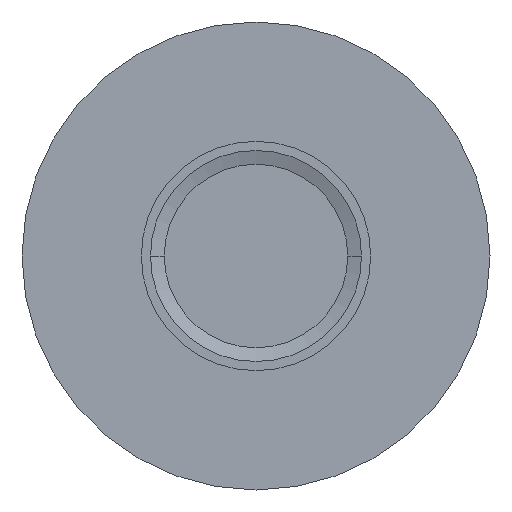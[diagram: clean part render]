
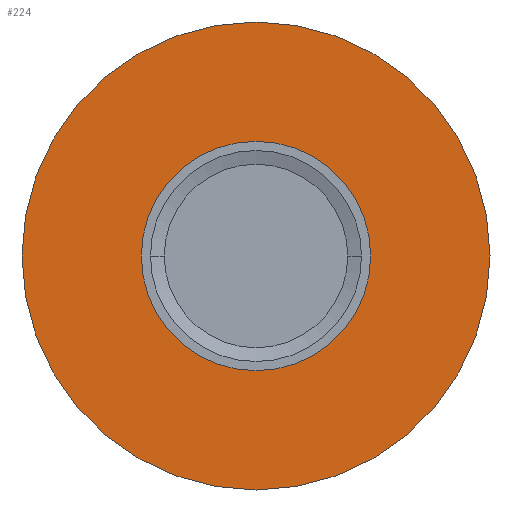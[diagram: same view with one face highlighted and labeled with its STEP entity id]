
A CAD part, left-side view. The second image highlights one B-rep face of the part: STEP entity #224.
In plain terms, the highlighted planar face has unit normal (-1, 0, 0) as drawn and (0, 0, -1) by its records, which use the part's own axes.
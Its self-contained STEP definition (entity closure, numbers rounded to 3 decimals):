
#1=CARTESIAN_POINT('',(0.,0.,0.));
#2=DIRECTION('',(0.,0.,1.));
#3=DIRECTION('',(1.,0.,0.));
#4=AXIS2_PLACEMENT_3D('',#1,#2,#3);
#6=CARTESIAN_POINT('',(0.,0.,0.));
#7=DIRECTION('',(0.,0.,1.));
#8=DIRECTION('',(-1.,0.,0.));
#9=AXIS2_PLACEMENT_3D('',#6,#7,#8);
#11=CARTESIAN_POINT('',(0.,0.,0.));
#12=DIRECTION('',(0.,0.,-1.));
#13=DIRECTION('',(1.,0.,0.));
#14=AXIS2_PLACEMENT_3D('',#11,#12,#13);
#16=CARTESIAN_POINT('',(0.,0.,0.));
#17=DIRECTION('',(0.,0.,-1.));
#18=DIRECTION('',(-1.,0.,0.));
#19=AXIS2_PLACEMENT_3D('',#16,#17,#18);
#159=CARTESIAN_POINT('',(51.,0.,0.));
#160=CARTESIAN_POINT('',(-51.,0.,0.));
#161=VERTEX_POINT('',#159);
#162=VERTEX_POINT('',#160);
#167=CARTESIAN_POINT('',(25.,0.,0.));
#168=CARTESIAN_POINT('',(-25.,0.,0.));
#169=VERTEX_POINT('',#167);
#170=VERTEX_POINT('',#168);
#207=CARTESIAN_POINT('',(0.,0.,0.));
#208=DIRECTION('',(0.,0.,1.));
#209=DIRECTION('',(1.,0.,0.));
#210=AXIS2_PLACEMENT_3D('',#207,#208,#209);
#211=PLANE('',#210);
#213=ORIENTED_EDGE('',*,*,#212,.T.);
#215=ORIENTED_EDGE('',*,*,#214,.T.);
#216=EDGE_LOOP('',(#213,#215));
#217=FACE_OUTER_BOUND('',#216,.F.);
#219=ORIENTED_EDGE('',*,*,#218,.T.);
#221=ORIENTED_EDGE('',*,*,#220,.T.);
#222=EDGE_LOOP('',(#219,#221));
#223=FACE_BOUND('',#222,.F.);
#224=ADVANCED_FACE('',(#217,#223),#211,.F.);
#5=CIRCLE('',#4,51.);
#10=CIRCLE('',#9,51.);
#15=CIRCLE('',#14,25.);
#20=CIRCLE('',#19,25.);
#212=EDGE_CURVE('',#161,#162,#5,.T.);
#214=EDGE_CURVE('',#162,#161,#10,.T.);
#218=EDGE_CURVE('',#169,#170,#15,.T.);
#220=EDGE_CURVE('',#170,#169,#20,.T.);
